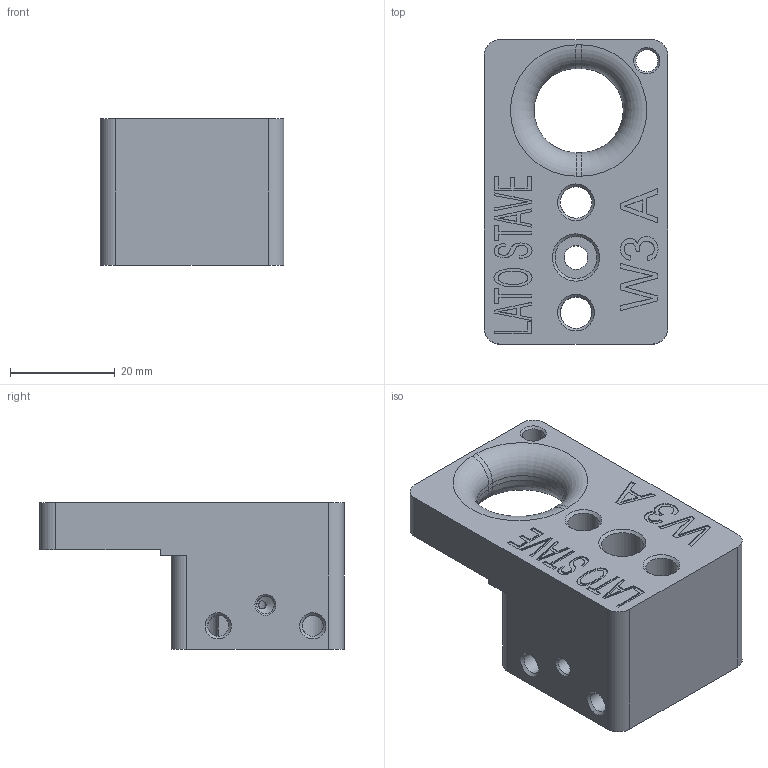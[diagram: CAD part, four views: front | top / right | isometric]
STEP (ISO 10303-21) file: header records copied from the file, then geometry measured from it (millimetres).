
FILE_DESCRIPTION(/* description */ (''),/* implementation_level */ '2;1');
FILE_NAME(/* name */ 'WHEELS-INSERT.17.stp',/* time_stamp */ '2018-10-12T17:21:04+02:00',/* author */ (''),/* organization */ (''),/* preprocessor_version */ 'ST-DEVELOPER v16.7',/* originating_system */ 'SIEMENS PLM Software NX 12.0',/* authorisation */ '');
FILE_SCHEMA (('AP203_CONFIGURATION_CONTROLLED_3D_DESIGN_OF_MECHANICAL_PARTS_AND_ASSEMBLIES_MIM_LF { 1 0 10303 403 2 1 2}'));
Length unit declared in the file: millimetre
Products named in the file (1): turc1934B35Eh6b5
Bounding box: 35 x 58 x 28 mm (x, y, z)
Volume: 34454.9 mm3; surface area: 10379.5 mm2
Topology: 1 solids, 1 shells, 182 faces, 484 edges, 319 vertices
Faces by surface type: plane 110, extrusion 26, cylinder 22, cone 16, torus 6, bspline 2
Full cylindrical faces by diameter (mm): 3.3 x1, 4 x2, 4.2 x3, 4.5 x1, 6 x2, 8 x1
Entity records: 6467 total; most frequent: CARTESIAN_POINT 2353, ORIENTED_EDGE 874, DIRECTION 636, EDGE_CURVE 437, VERTEX_POINT 301, B_SPLINE_CURVE_WITH_KNOTS 245, EDGE_LOOP 240, AXIS2_PLACEMENT_3D 229
